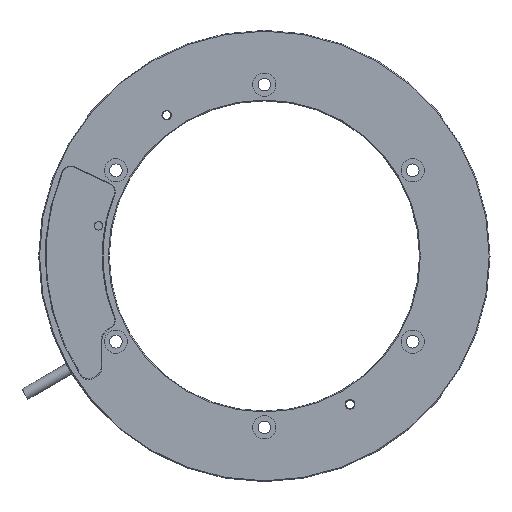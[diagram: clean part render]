
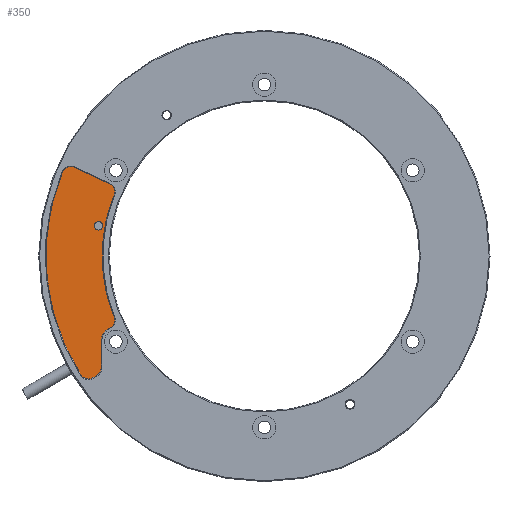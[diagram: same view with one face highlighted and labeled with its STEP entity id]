
A CAD part, front view. The second image highlights one B-rep face of the part: STEP entity #350.
In plain terms, the highlighted planar face has unit normal (0, -1, 0).
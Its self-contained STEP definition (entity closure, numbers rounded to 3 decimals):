
#85 = CARTESIAN_POINT ( 'NONE',  ( -56.16, 0.2, 22.768 ) ) ;
#180 = VERTEX_POINT ( 'NONE', #806 ) ;
#194 = EDGE_CURVE ( 'NONE', #3829, #4019, #1825, .T. ) ;
#203 = DIRECTION ( 'NONE',  ( 0., 1., 0. ) ) ;
#229 = EDGE_CURVE ( 'NONE', #4106, #6349, #4983, .T. ) ;
#237 = ORIENTED_EDGE ( 'NONE', *, *, #4001, .T. ) ;
#258 = CARTESIAN_POINT ( 'NONE',  ( -62.394, 0.2, -40.526 ) ) ;
#273 = CARTESIAN_POINT ( 'NONE',  ( -54.85, 0.2, 25.577 ) ) ;
#330 = VERTEX_POINT ( 'NONE', #4725 ) ;
#333 = VECTOR ( 'NONE', #5634, 1000. ) ;
#350 = ADVANCED_FACE ( 'NONE', ( #4789, #6835 ), #6270, .T. ) ;
#360 = CARTESIAN_POINT ( 'NONE',  ( -61.006, 0.2, -39.725 ) ) ;
#516 = ORIENTED_EDGE ( 'NONE', *, *, #5966, .T. ) ;
#616 = ORIENTED_EDGE ( 'NONE', *, *, #3976, .T. ) ;
#714 = CIRCLE ( 'NONE', #4706, 57.5 ) ;
#786 = CARTESIAN_POINT ( 'NONE',  ( -57.186, 0.2, -6. ) ) ;
#806 = CARTESIAN_POINT ( 'NONE',  ( -60.844, 0.2, -43.211 ) ) ;
#808 = CIRCLE ( 'NONE', #4136, 3.1 ) ;
#900 = AXIS2_PLACEMENT_3D ( 'NONE', #2371, #203, #2333 ) ;
#928 = EDGE_CURVE ( 'NONE', #4727, #5135, #714, .T. ) ;
#963 = EDGE_CURVE ( 'NONE', #4221, #4873, #5607, .T. ) ;
#1010 = AXIS2_PLACEMENT_3D ( 'NONE', #2802, #5940, #4302 ) ;
#1151 = CARTESIAN_POINT ( 'NONE',  ( -57.186, 0.2, -6. ) ) ;
#1261 = DIRECTION ( 'NONE',  ( 1., 0., 0. ) ) ;
#1297 = DIRECTION ( 'NONE',  ( 1., 0., 0. ) ) ;
#1303 = CARTESIAN_POINT ( 'NONE',  ( -54.85, 0.2, -25.577 ) ) ;
#1468 = DIRECTION ( 'NONE',  ( 0., -1., 0. ) ) ;
#1561 = VERTEX_POINT ( 'NONE', #5377 ) ;
#1625 = CARTESIAN_POINT ( 'NONE',  ( -64.993, 0.2, -42.215 ) ) ;
#1825 = CIRCLE ( 'NONE', #6906, 1.5 ) ;
#1894 = CARTESIAN_POINT ( 'NONE',  ( -68.681, 0.2, 28.606 ) ) ;
#1941 = CARTESIAN_POINT ( 'NONE',  ( -56.16, 0.2, -22.768 ) ) ;
#1951 = CARTESIAN_POINT ( 'NONE',  ( -53.288, 0.2, 21.603 ) ) ;
#1954 = AXIS2_PLACEMENT_3D ( 'NONE', #6904, #2067, #4237 ) ;
#1965 = AXIS2_PLACEMENT_3D ( 'NONE', #1941, #1468, #5284 ) ;
#2038 = DIRECTION ( 'NONE',  ( 1., 0., 0. ) ) ;
#2067 = DIRECTION ( 'NONE',  ( 0., -1., 0. ) ) ;
#2301 = EDGE_CURVE ( 'NONE', #330, #3689, #6909, .T. ) ;
#2314 = AXIS2_PLACEMENT_3D ( 'NONE', #5303, #2622, #4758 ) ;
#2333 = DIRECTION ( 'NONE',  ( 1., 0., 0. ) ) ;
#2355 = EDGE_CURVE ( 'NONE', #1561, #5504, #3093, .T. ) ;
#2371 = CARTESIAN_POINT ( 'NONE',  ( 0., 0.2, 0. ) ) ;
#2449 = LINE ( 'NONE', #4588, #6240 ) ;
#2509 = ORIENTED_EDGE ( 'NONE', *, *, #194, .F. ) ;
#2556 = CIRCLE ( 'NONE', #2314, 77.5 ) ;
#2570 = ORIENTED_EDGE ( 'NONE', *, *, #5888, .T. ) ;
#2594 = DIRECTION ( 'NONE',  ( 1., 0., 0. ) ) ;
#2601 = DIRECTION ( 'NONE',  ( 0., -1., 0. ) ) ;
#2622 = DIRECTION ( 'NONE',  ( 0., -1., 0. ) ) ;
#2790 = CARTESIAN_POINT ( 'NONE',  ( -67.371, 0.2, 31.415 ) ) ;
#2802 = CARTESIAN_POINT ( 'NONE',  ( -52.611, 0.2, -30.375 ) ) ;
#2896 = EDGE_CURVE ( 'NONE', #5135, #1561, #6705, .T. ) ;
#3023 = DIRECTION ( 'NONE',  ( 0., -1., 0. ) ) ;
#3069 = EDGE_CURVE ( 'NONE', #5504, #3129, #5947, .T. ) ;
#3068 = CARTESIAN_POINT ( 'NONE',  ( 0., 0.2, 0. ) ) ;
#3093 = CIRCLE ( 'NONE', #900, 57.5 ) ;
#3129 = VERTEX_POINT ( 'NONE', #273 ) ;
#3144 = ORIENTED_EDGE ( 'NONE', *, *, #229, .T. ) ;
#3201 = EDGE_LOOP ( 'NONE', ( #2509, #5447 ) ) ;
#3218 = CIRCLE ( 'NONE', #1965, 3.1 ) ;
#3383 = DIRECTION ( 'NONE',  ( 0.866, 0., 0.5 ) ) ;
#3384 = DIRECTION ( 'NONE',  ( 1., 0., 0. ) ) ;
#3453 = CARTESIAN_POINT ( 'NONE',  ( -59.456, 0.2, -42.41 ) ) ;
#3472 = ORIENTED_EDGE ( 'NONE', *, *, #928, .T. ) ;
#3587 = CARTESIAN_POINT ( 'NONE',  ( -77.5, 0.2, 0. ) ) ;
#3673 = CARTESIAN_POINT ( 'NONE',  ( -57.906, 0.2, -39.725 ) ) ;
#3689 = VERTEX_POINT ( 'NONE', #1303 ) ;
#3726 = LINE ( 'NONE', #5298, #6371 ) ;
#3829 = VERTEX_POINT ( 'NONE', #4374 ) ;
#3857 = ORIENTED_EDGE ( 'NONE', *, *, #2896, .T. ) ;
#3976 = EDGE_CURVE ( 'NONE', #4487, #4296, #6827, .T. ) ;
#3985 = ORIENTED_EDGE ( 'NONE', *, *, #5988, .T. ) ;
#4001 = EDGE_CURVE ( 'NONE', #4873, #330, #3726, .T. ) ;
#4019 = VERTEX_POINT ( 'NONE', #4785 ) ;
#4039 = CARTESIAN_POINT ( 'NONE',  ( -58.75, 0.2, 10.7 ) ) ;
#4067 = EDGE_LOOP ( 'NONE', ( #6949, #3985, #3472, #3857, #5125, #6579, #2570, #3144, #4413, #616, #516, #6828, #6771, #237 ) ) ;
#4093 = EDGE_CURVE ( 'NONE', #180, #4221, #4922, .T. ) ;
#4106 = VERTEX_POINT ( 'NONE', #2790 ) ;
#4136 = AXIS2_PLACEMENT_3D ( 'NONE', #258, #2601, #5770 ) ;
#4209 = CARTESIAN_POINT ( 'NONE',  ( 0., 0.2, 0. ) ) ;
#4221 = VERTEX_POINT ( 'NONE', #3453 ) ;
#4237 = DIRECTION ( 'NONE',  ( 1., 0., 0. ) ) ;
#4294 = DIRECTION ( 'NONE',  ( 0., 0., 1. ) ) ;
#4296 = VERTEX_POINT ( 'NONE', #1625 ) ;
#4302 = DIRECTION ( 'NONE',  ( 1., 0., 0. ) ) ;
#4374 = CARTESIAN_POINT ( 'NONE',  ( -57.25, 0.2, 10.7 ) ) ;
#4413 = ORIENTED_EDGE ( 'NONE', *, *, #6267, .T. ) ;
#4487 = VERTEX_POINT ( 'NONE', #3587 ) ;
#4588 = CARTESIAN_POINT ( 'NONE',  ( -70.239, 0.2, 32.753 ) ) ;
#4592 = DIRECTION ( 'NONE',  ( 1., 0., 0. ) ) ;
#4667 = CARTESIAN_POINT ( 'NONE',  ( -58.75, 0.2, 10.7 ) ) ;
#4706 = AXIS2_PLACEMENT_3D ( 'NONE', #4209, #4734, #2038 ) ;
#4725 = CARTESIAN_POINT ( 'NONE',  ( -57.906, 0.2, -30.375 ) ) ;
#4727 = VERTEX_POINT ( 'NONE', #6139 ) ;
#4734 = DIRECTION ( 'NONE',  ( 0., 1., 0. ) ) ;
#4758 = DIRECTION ( 'NONE',  ( 1., 0., 0. ) ) ;
#4785 = CARTESIAN_POINT ( 'NONE',  ( -60.25, 0.2, 10.7 ) ) ;
#4789 = FACE_BOUND ( 'NONE', #3201, .T. ) ;
#4804 = AXIS2_PLACEMENT_3D ( 'NONE', #3068, #5222, #1261 ) ;
#4829 = DIRECTION ( 'NONE',  ( 0., -1., 0. ) ) ;
#4873 = VERTEX_POINT ( 'NONE', #3673 ) ;
#4922 = LINE ( 'NONE', #5959, #5213 ) ;
#4983 = CIRCLE ( 'NONE', #5445, 3.1 ) ;
#5125 = ORIENTED_EDGE ( 'NONE', *, *, #2355, .T. ) ;
#5135 = VERTEX_POINT ( 'NONE', #1151 ) ;
#5164 = AXIS2_PLACEMENT_3D ( 'NONE', #360, #4829, #6981 ) ;
#5213 = VECTOR ( 'NONE', #3383, 1000. ) ;
#5222 = DIRECTION ( 'NONE',  ( 0., -1., 0. ) ) ;
#5284 = DIRECTION ( 'NONE',  ( 1., 0., 0. ) ) ;
#5298 = CARTESIAN_POINT ( 'NONE',  ( -57.906, 0.2, -41.515 ) ) ;
#5303 = CARTESIAN_POINT ( 'NONE',  ( 0., 0.2, 0. ) ) ;
#5377 = CARTESIAN_POINT ( 'NONE',  ( -57.186, 0.2, 6. ) ) ;
#5445 = AXIS2_PLACEMENT_3D ( 'NONE', #1894, #6167, #1297 ) ;
#5447 = ORIENTED_EDGE ( 'NONE', *, *, #6864, .F. ) ;
#5504 = VERTEX_POINT ( 'NONE', #1951 ) ;
#5562 = AXIS2_PLACEMENT_3D ( 'NONE', #4667, #3023, #2594 ) ;
#5607 = CIRCLE ( 'NONE', #5164, 3.1 ) ;
#5634 = DIRECTION ( 'NONE',  ( 0., 0., 1. ) ) ;
#5683 = CIRCLE ( 'NONE', #5562, 1.5 ) ;
#5770 = DIRECTION ( 'NONE',  ( 1., 0., 0. ) ) ;
#5888 = EDGE_CURVE ( 'NONE', #3129, #4106, #2449, .T. ) ;
#5940 = DIRECTION ( 'NONE',  ( 0., 1., 0. ) ) ;
#5947 = CIRCLE ( 'NONE', #6831, 3.1 ) ;
#5959 = CARTESIAN_POINT ( 'NONE',  ( -63.343, 0.2, -44.654 ) ) ;
#5966 = EDGE_CURVE ( 'NONE', #4296, #180, #808, .T. ) ;
#5988 = EDGE_CURVE ( 'NONE', #3689, #4727, #3218, .T. ) ;
#6060 = DIRECTION ( 'NONE',  ( 0., -1., 0. ) ) ;
#6139 = CARTESIAN_POINT ( 'NONE',  ( -53.288, 0.2, -21.603 ) ) ;
#6167 = DIRECTION ( 'NONE',  ( 0., -1., 0. ) ) ;
#6191 = CARTESIAN_POINT ( 'NONE',  ( -71.543, 0.2, 29.798 ) ) ;
#6240 = VECTOR ( 'NONE', #6720, 1000. ) ;
#6267 = EDGE_CURVE ( 'NONE', #6349, #4487, #2556, .T. ) ;
#6270 = PLANE ( 'NONE',  #1954 ) ;
#6349 = VERTEX_POINT ( 'NONE', #6191 ) ;
#6371 = VECTOR ( 'NONE', #4294, 1000. ) ;
#6579 = ORIENTED_EDGE ( 'NONE', *, *, #3069, .T. ) ;
#6601 = DIRECTION ( 'NONE',  ( 0., -1., 0. ) ) ;
#6705 = LINE ( 'NONE', #786, #333 ) ;
#6720 = DIRECTION ( 'NONE',  ( -0.906, 0., 0.423 ) ) ;
#6771 = ORIENTED_EDGE ( 'NONE', *, *, #963, .T. ) ;
#6827 = CIRCLE ( 'NONE', #4804, 77.5 ) ;
#6828 = ORIENTED_EDGE ( 'NONE', *, *, #4093, .T. ) ;
#6831 = AXIS2_PLACEMENT_3D ( 'NONE', #85, #6060, #3384 ) ;
#6835 = FACE_OUTER_BOUND ( 'NONE', #4067, .T. ) ;
#6864 = EDGE_CURVE ( 'NONE', #4019, #3829, #5683, .T. ) ;
#6904 = CARTESIAN_POINT ( 'NONE',  ( 0., 0.2, 0. ) ) ;
#6906 = AXIS2_PLACEMENT_3D ( 'NONE', #4039, #6601, #4592 ) ;
#6909 = CIRCLE ( 'NONE', #1010, 5.295 ) ;
#6949 = ORIENTED_EDGE ( 'NONE', *, *, #2301, .T. ) ;
#6981 = DIRECTION ( 'NONE',  ( 1., 0., 0. ) ) ;
